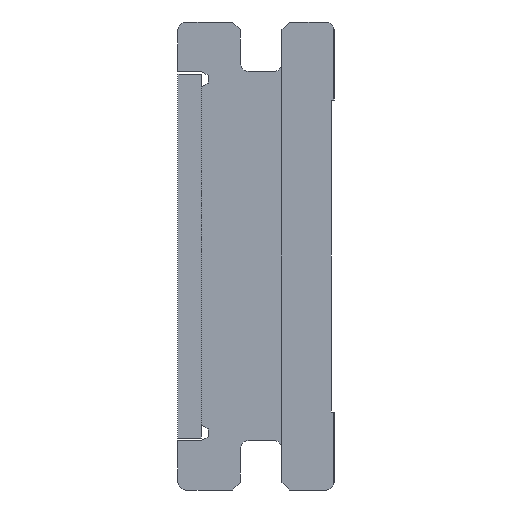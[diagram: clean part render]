
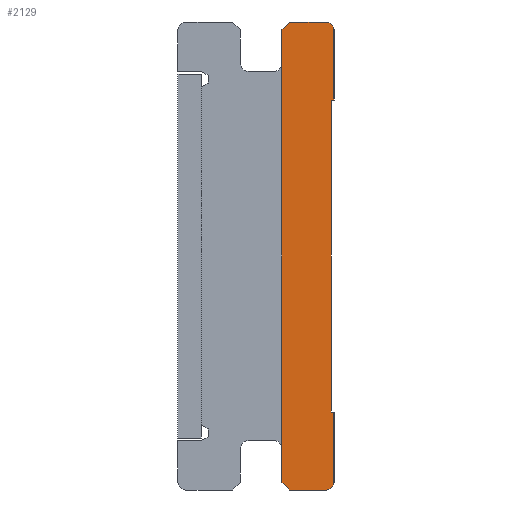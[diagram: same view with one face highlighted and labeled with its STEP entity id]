
A CAD part, left-side view. The second image highlights one B-rep face of the part: STEP entity #2129.
In plain terms, the highlighted planar face has unit normal (-1, 0, 0).
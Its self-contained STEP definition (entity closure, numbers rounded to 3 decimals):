
#3 = CARTESIAN_POINT ( 'NONE',  ( 0., 0.3, -0.3 ) ) ;
#21 = CARTESIAN_POINT ( 'NONE',  ( 0., 2., -17.7 ) ) ;
#52 = LINE ( 'NONE', #1529, #74 ) ;
#69 = VERTEX_POINT ( 'NONE', #906 ) ;
#74 = VECTOR ( 'NONE', #1376, 1000. ) ;
#129 = PLANE ( 'NONE',  #1554 ) ;
#178 = CARTESIAN_POINT ( 'NONE',  ( 0., 0., -15. ) ) ;
#192 = CIRCLE ( 'NONE', #484, 0.3 ) ;
#217 = LINE ( 'NONE', #1395, #366 ) ;
#262 = DIRECTION ( 'NONE',  ( 0., -1., 0. ) ) ;
#267 = DIRECTION ( 'NONE',  ( 0., 0., 1. ) ) ;
#283 = CARTESIAN_POINT ( 'NONE',  ( 0., 2., -0.3 ) ) ;
#307 = CARTESIAN_POINT ( 'NONE',  ( 0., 1.7, -18. ) ) ;
#320 = LINE ( 'NONE', #1486, #2360 ) ;
#337 = DIRECTION ( 'NONE',  ( 0., 0., -1. ) ) ;
#366 = VECTOR ( 'NONE', #383, 1000. ) ;
#383 = DIRECTION ( 'NONE',  ( 0., 0.707, 0.707 ) ) ;
#414 = ORIENTED_EDGE ( 'NONE', *, *, #1494, .F. ) ;
#445 = VECTOR ( 'NONE', #267, 1000. ) ;
#449 = EDGE_LOOP ( 'NONE', ( #596, #641, #820, #489, #2260, #1296, #682, #488, #493, #2038, #414, #1487 ) ) ;
#484 = AXIS2_PLACEMENT_3D ( 'NONE', #777, #584, #753 ) ;
#488 = ORIENTED_EDGE ( 'NONE', *, *, #2183, .F. ) ;
#489 = ORIENTED_EDGE ( 'NONE', *, *, #799, .F. ) ;
#490 = EDGE_CURVE ( 'NONE', #841, #2342, #1574, .T. ) ;
#493 = ORIENTED_EDGE ( 'NONE', *, *, #1391, .F. ) ;
#566 = DIRECTION ( 'NONE',  ( 1., 0., 0. ) ) ;
#582 = EDGE_CURVE ( 'NONE', #1941, #827, #192, .T. ) ;
#584 = DIRECTION ( 'NONE',  ( 1., 0., 0. ) ) ;
#592 = CARTESIAN_POINT ( 'NONE',  ( 0., 0., -3. ) ) ;
#596 = ORIENTED_EDGE ( 'NONE', *, *, #2133, .F. ) ;
#641 = ORIENTED_EDGE ( 'NONE', *, *, #675, .F. ) ;
#675 = EDGE_CURVE ( 'NONE', #1752, #1736, #2137, .T. ) ;
#682 = ORIENTED_EDGE ( 'NONE', *, *, #490, .F. ) ;
#685 = CARTESIAN_POINT ( 'NONE',  ( 0., 0., -15. ) ) ;
#753 = DIRECTION ( 'NONE',  ( 0., 0., -1. ) ) ;
#777 = CARTESIAN_POINT ( 'NONE',  ( 0., 0.3, -17.7 ) ) ;
#799 = EDGE_CURVE ( 'NONE', #827, #2240, #52, .T. ) ;
#814 = VECTOR ( 'NONE', #1912, 1000. ) ;
#815 = VERTEX_POINT ( 'NONE', #2091 ) ;
#820 = ORIENTED_EDGE ( 'NONE', *, *, #2188, .F. ) ;
#827 = VERTEX_POINT ( 'NONE', #837 ) ;
#837 = CARTESIAN_POINT ( 'NONE',  ( 0., 0.3, -18. ) ) ;
#841 = VERTEX_POINT ( 'NONE', #2119 ) ;
#906 = CARTESIAN_POINT ( 'NONE',  ( 0., 0.3, 0. ) ) ;
#919 = CARTESIAN_POINT ( 'NONE',  ( 0., 0., -17.7 ) ) ;
#938 = DIRECTION ( 'NONE',  ( 0., -1., 0. ) ) ;
#955 = CARTESIAN_POINT ( 'NONE',  ( 0., 5.1, -15.8 ) ) ;
#1035 = CIRCLE ( 'NONE', #2399, 0.3 ) ;
#1047 = VERTEX_POINT ( 'NONE', #1685 ) ;
#1048 = DIRECTION ( 'NONE',  ( 0., 1., 0. ) ) ;
#1195 = VECTOR ( 'NONE', #337, 1000. ) ;
#1253 = VECTOR ( 'NONE', #2238, 1000. ) ;
#1296 = ORIENTED_EDGE ( 'NONE', *, *, #1901, .F. ) ;
#1376 = DIRECTION ( 'NONE',  ( 0., 1., 0. ) ) ;
#1379 = LINE ( 'NONE', #1605, #2207 ) ;
#1391 = EDGE_CURVE ( 'NONE', #1635, #1047, #2324, .T. ) ;
#1394 = CARTESIAN_POINT ( 'NONE',  ( 0., 0., -3. ) ) ;
#1395 = CARTESIAN_POINT ( 'NONE',  ( 0., 1.7, -18. ) ) ;
#1486 = CARTESIAN_POINT ( 'NONE',  ( 0., 0.3, 0. ) ) ;
#1487 = ORIENTED_EDGE ( 'NONE', *, *, #2445, .F. ) ;
#1494 = EDGE_CURVE ( 'NONE', #69, #2341, #1035, .T. ) ;
#1503 = FACE_OUTER_BOUND ( 'NONE', #449, .T. ) ;
#1529 = CARTESIAN_POINT ( 'NONE',  ( 0., 0.3, -18. ) ) ;
#1554 = AXIS2_PLACEMENT_3D ( 'NONE', #955, #2226, #1695 ) ;
#1574 = LINE ( 'NONE', #1977, #1946 ) ;
#1605 = CARTESIAN_POINT ( 'NONE',  ( 0., 0., -0.3 ) ) ;
#1617 = DIRECTION ( 'NONE',  ( 0., 0., -1. ) ) ;
#1635 = VERTEX_POINT ( 'NONE', #592 ) ;
#1685 = CARTESIAN_POINT ( 'NONE',  ( 0., 0.1, -3. ) ) ;
#1695 = DIRECTION ( 'NONE',  ( 0., 1., 0. ) ) ;
#1704 = DIRECTION ( 'NONE',  ( 0., 0., 1. ) ) ;
#1736 = VERTEX_POINT ( 'NONE', #283 ) ;
#1748 = EDGE_CURVE ( 'NONE', #2341, #1635, #1379, .T. ) ;
#1752 = VERTEX_POINT ( 'NONE', #2173 ) ;
#1773 = CARTESIAN_POINT ( 'NONE',  ( 0., 0., -0.3 ) ) ;
#1828 = LINE ( 'NONE', #2428, #1253 ) ;
#1901 = EDGE_CURVE ( 'NONE', #2342, #1941, #2027, .T. ) ;
#1912 = DIRECTION ( 'NONE',  ( 0., 0., -1. ) ) ;
#1941 = VERTEX_POINT ( 'NONE', #919 ) ;
#1946 = VECTOR ( 'NONE', #262, 1000. ) ;
#1977 = CARTESIAN_POINT ( 'NONE',  ( 0., 0., -15. ) ) ;
#2027 = LINE ( 'NONE', #685, #1195 ) ;
#2038 = ORIENTED_EDGE ( 'NONE', *, *, #1748, .F. ) ;
#2076 = VECTOR ( 'NONE', #1048, 1000. ) ;
#2091 = CARTESIAN_POINT ( 'NONE',  ( 0., 1.7, 0. ) ) ;
#2097 = CARTESIAN_POINT ( 'NONE',  ( 0., 0.1, -3. ) ) ;
#2119 = CARTESIAN_POINT ( 'NONE',  ( 0., 0.1, -15. ) ) ;
#2129 = ADVANCED_FACE ( 'NONE', ( #1503 ), #129, .F. ) ;
#2133 = EDGE_CURVE ( 'NONE', #1736, #815, #1828, .T. ) ;
#2137 = LINE ( 'NONE', #21, #445 ) ;
#2173 = CARTESIAN_POINT ( 'NONE',  ( 0., 2., -17.7 ) ) ;
#2183 = EDGE_CURVE ( 'NONE', #1047, #841, #2272, .T. ) ;
#2188 = EDGE_CURVE ( 'NONE', #2240, #1752, #217, .T. ) ;
#2207 = VECTOR ( 'NONE', #1617, 1000. ) ;
#2226 = DIRECTION ( 'NONE',  ( 1., 0., 0. ) ) ;
#2238 = DIRECTION ( 'NONE',  ( 0., -0.707, 0.707 ) ) ;
#2240 = VERTEX_POINT ( 'NONE', #307 ) ;
#2260 = ORIENTED_EDGE ( 'NONE', *, *, #582, .F. ) ;
#2272 = LINE ( 'NONE', #2097, #814 ) ;
#2324 = LINE ( 'NONE', #1394, #2076 ) ;
#2341 = VERTEX_POINT ( 'NONE', #1773 ) ;
#2342 = VERTEX_POINT ( 'NONE', #178 ) ;
#2360 = VECTOR ( 'NONE', #938, 1000. ) ;
#2399 = AXIS2_PLACEMENT_3D ( 'NONE', #3, #566, #1704 ) ;
#2428 = CARTESIAN_POINT ( 'NONE',  ( 0., 1.7, 0. ) ) ;
#2445 = EDGE_CURVE ( 'NONE', #815, #69, #320, .T. ) ;
